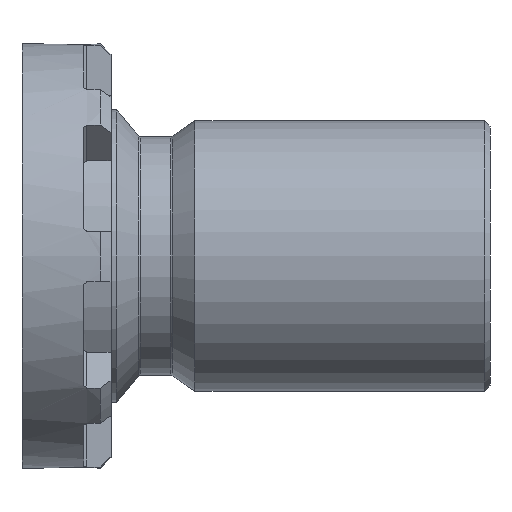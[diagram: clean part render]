
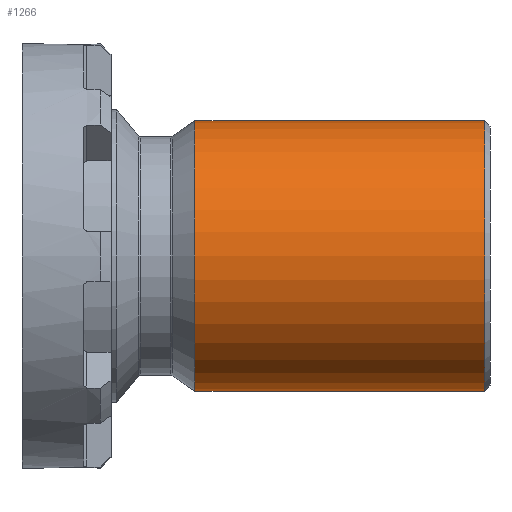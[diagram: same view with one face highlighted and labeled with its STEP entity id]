
A CAD part, left-side view. The second image highlights one B-rep face of the part: STEP entity #1266.
In plain terms, the highlighted cylindrical face has radius 5 mm (diameter 10 mm), a full revolution.
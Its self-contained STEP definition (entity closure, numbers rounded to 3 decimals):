
#36=CYLINDRICAL_SURFACE('',#1434,5.);
#84=CIRCLE('',#1431,5.);
#85=CIRCLE('',#1432,5.);
#86=CIRCLE('',#1435,5.);
#173=FACE_OUTER_BOUND('',#242,.T.);
#242=EDGE_LOOP('',(#1069,#1070,#1071,#1072,#1073));
#333=LINE('',#2246,#420);
#420=VECTOR('',#1812,5.);
#573=VERTEX_POINT('',#2238);
#574=VERTEX_POINT('',#2240);
#575=VERTEX_POINT('',#2245);
#758=EDGE_CURVE('',#573,#574,#84,.T.);
#759=EDGE_CURVE('',#574,#573,#85,.T.);
#760=EDGE_CURVE('',#574,#575,#333,.T.);
#761=EDGE_CURVE('',#575,#575,#86,.T.);
#1069=ORIENTED_EDGE('',*,*,#758,.F.);
#1070=ORIENTED_EDGE('',*,*,#759,.F.);
#1071=ORIENTED_EDGE('',*,*,#760,.T.);
#1072=ORIENTED_EDGE('',*,*,#761,.T.);
#1073=ORIENTED_EDGE('',*,*,#760,.F.);
#1266=ADVANCED_FACE('',(#173),#36,.T.);
#1431=AXIS2_PLACEMENT_3D('',#2241,#1804,#1805);
#1432=AXIS2_PLACEMENT_3D('',#2242,#1806,#1807);
#1434=AXIS2_PLACEMENT_3D('',#2244,#1810,#1811);
#1435=AXIS2_PLACEMENT_3D('',#2247,#1813,#1814);
#1804=DIRECTION('center_axis',(0.,-1.,0.));
#1805=DIRECTION('ref_axis',(-1.,0.,0.));
#1806=DIRECTION('center_axis',(0.,-1.,0.));
#1807=DIRECTION('ref_axis',(-1.,0.,0.));
#1810=DIRECTION('center_axis',(0.,-1.,0.));
#1811=DIRECTION('ref_axis',(1.,0.,0.));
#1812=DIRECTION('',(0.,1.,0.));
#1813=DIRECTION('center_axis',(0.,-1.,0.));
#1814=DIRECTION('ref_axis',(1.,0.,0.));
#2238=CARTESIAN_POINT('',(5.,0.2,0.));
#2240=CARTESIAN_POINT('',(-5.,0.2,0.));
#2241=CARTESIAN_POINT('Origin',(0.,0.2,0.));
#2242=CARTESIAN_POINT('Origin',(0.,0.2,0.));
#2244=CARTESIAN_POINT('Origin',(0.,5.45,0.));
#2245=CARTESIAN_POINT('',(-5.,10.9,0.));
#2246=CARTESIAN_POINT('',(-5.,5.45,0.));
#2247=CARTESIAN_POINT('Origin',(0.,10.9,0.));
